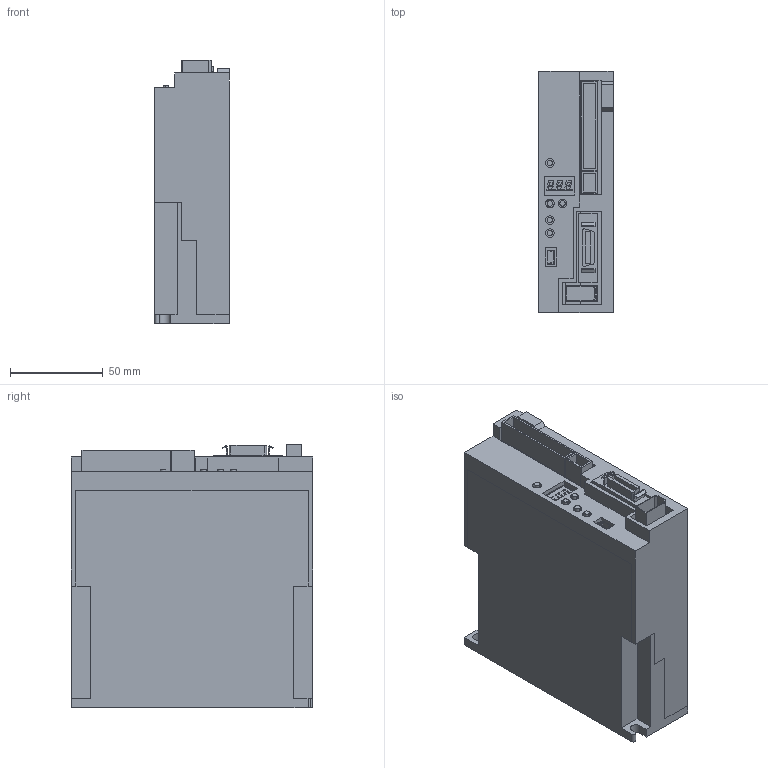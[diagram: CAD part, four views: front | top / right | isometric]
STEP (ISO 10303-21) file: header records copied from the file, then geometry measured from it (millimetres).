
FILE_DESCRIPTION (( 'STEP AP203' ), '1' );
FILE_NAME ('mr-jn-10a_a.step', '2009-12-02T00:30:11', ( ' ' ), ( '' ), 'SwSTEP 2.0', 'SolidWorks 2006303', '' );
FILE_SCHEMA (( 'CONFIG_CONTROL_DESIGN' ));
Length unit declared in the file: millimetre
Products named in the file (10): JNA-CN1__; JN-CASE__; mr-jn-10a_a; JNA-CNP1__; JNA-CN3__; JNA-CNP2__; JNA-7SEG__; JNA-PB__; JNA-CN2__; JN-10A-CHASSIS__
Assembly tree (13 placements, depth 2):
  mr-jn-10a_a
    JNA-PB__  x5
    JNA-CNP1__
    JNA-CNP2__
    JNA-CN1__
    JN-CASE__
    JN-10A-CHASSIS__
    JNA-7SEG__
    JNA-CN3__
    JNA-CN2__
Bounding box: 40 x 130 x 141.8 mm (x, y, z)
Volume: 266990.9 mm3; surface area: 114422 mm2
Topology: 13 solids, 13 shells, 407 faces, 1037 edges, 690 vertices
Faces by surface type: plane 342, cylinder 65
Entity records: 12705 total; most frequent: CARTESIAN_POINT 2042, ORIENTED_EDGE 1978, DIRECTION 1877, EDGE_CURVE 989, VECTOR 891, LINE 891, VERTEX_POINT 658, AXIS2_PLACEMENT_3D 493
